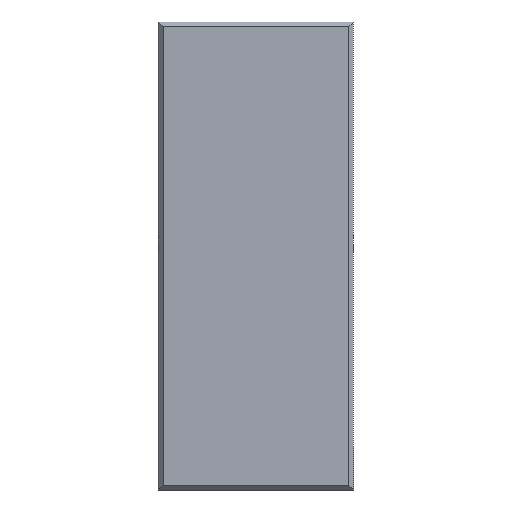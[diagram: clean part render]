
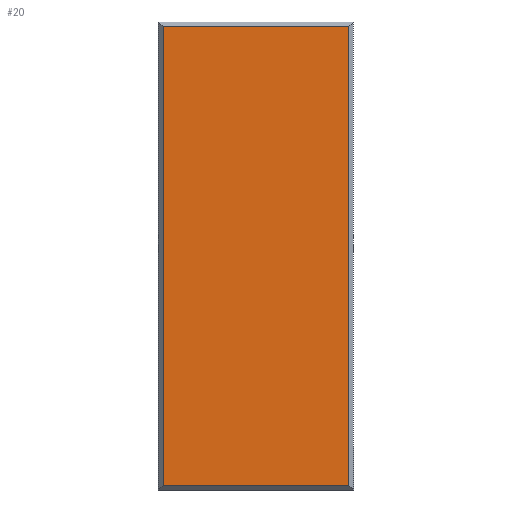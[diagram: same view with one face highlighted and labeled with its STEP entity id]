
A CAD part, front view. The second image highlights one B-rep face of the part: STEP entity #20.
In plain terms, the highlighted planar face has unit normal (0, -1, 0).
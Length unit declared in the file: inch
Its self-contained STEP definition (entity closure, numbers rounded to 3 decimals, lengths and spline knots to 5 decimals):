
#20=ADVANCED_FACE('',(#30),#142,.T.);
#30=FACE_OUTER_BOUND('',#40,.T.);
#40=EDGE_LOOP('',(#68,#69,#70,#71));
#68=ORIENTED_EDGE('',*,*,#84,.F.);
#69=ORIENTED_EDGE('',*,*,#95,.F.);
#70=ORIENTED_EDGE('',*,*,#91,.F.);
#71=ORIENTED_EDGE('',*,*,#88,.F.);
#84=EDGE_CURVE('',#124,#125,#104,.T.);
#88=EDGE_CURVE('',#125,#128,#108,.T.);
#91=EDGE_CURVE('',#128,#130,#111,.T.);
#95=EDGE_CURVE('',#130,#124,#115,.T.);
#104=B_SPLINE_CURVE_WITH_KNOTS('',1,(#285,#286),.UNSPECIFIED.,.F.,.F.,(2,
2),(0.,23.5),.UNSPECIFIED.);
#108=B_SPLINE_CURVE_WITH_KNOTS('',1,(#293,#294),.UNSPECIFIED.,.F.,.F.,(2,
2),(0.,9.5),.UNSPECIFIED.);
#111=B_SPLINE_CURVE_WITH_KNOTS('',1,(#299,#300),.UNSPECIFIED.,.F.,.F.,(2,
2),(0.,23.5),.UNSPECIFIED.);
#115=B_SPLINE_CURVE_WITH_KNOTS('',1,(#307,#308),.UNSPECIFIED.,.F.,.F.,(2,
2),(0.,9.5),.UNSPECIFIED.);
#124=VERTEX_POINT('',#273);
#125=VERTEX_POINT('',#274);
#128=VERTEX_POINT('',#277);
#130=VERTEX_POINT('',#279);
#142=PLANE('',#243);
#243=AXIS2_PLACEMENT_3D('',#269,#256,$);
#256=DIRECTION('',(0.,-1.,0.));
#269=CARTESIAN_POINT('',(-5.70472,-0.5,14.10472));
#273=CARTESIAN_POINT('',(-4.75,-0.5,-11.75));
#274=CARTESIAN_POINT('',(-4.75,-0.5,11.75));
#277=CARTESIAN_POINT('',(4.75,-0.5,11.75));
#279=CARTESIAN_POINT('',(4.75,-0.5,-11.75));
#285=CARTESIAN_POINT('',(-4.75,-0.5,-11.75));
#286=CARTESIAN_POINT('',(-4.75,-0.5,11.75));
#293=CARTESIAN_POINT('',(-4.75,-0.5,11.75));
#294=CARTESIAN_POINT('',(4.75,-0.5,11.75));
#299=CARTESIAN_POINT('',(4.75,-0.5,11.75));
#300=CARTESIAN_POINT('',(4.75,-0.5,-11.75));
#307=CARTESIAN_POINT('',(4.75,-0.5,-11.75));
#308=CARTESIAN_POINT('',(-4.75,-0.5,-11.75));
